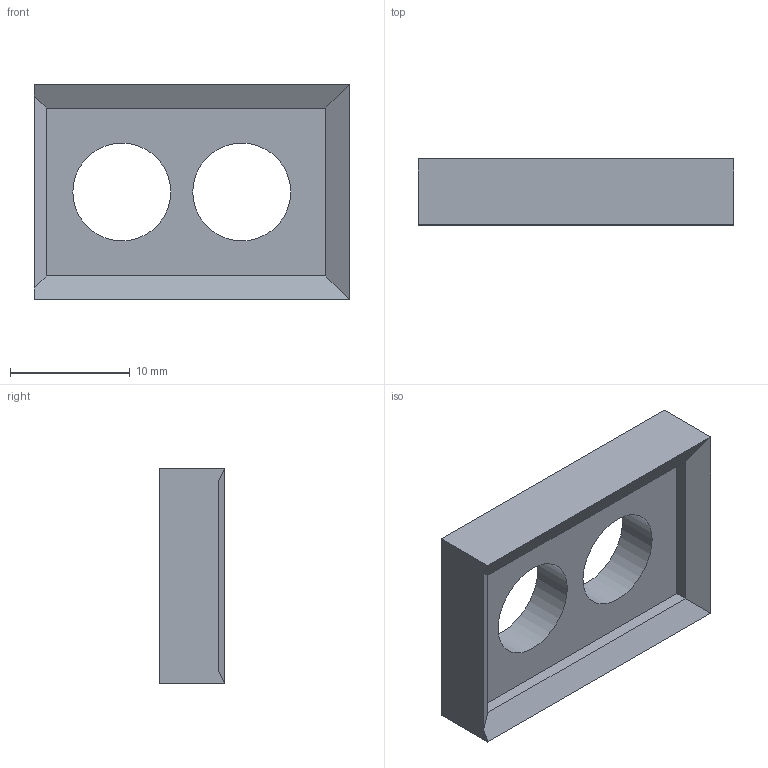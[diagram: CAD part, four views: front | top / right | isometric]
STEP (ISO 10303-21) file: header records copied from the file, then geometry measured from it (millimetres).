
FILE_DESCRIPTION(/* description */ (''),/* implementation_level */ '2;1');
FILE_NAME(/* name */ 'Lumi_TVbuttonframe.step',/* time_stamp */ '2025-06-14T15:39:11+05:30',/* author */ (''),/* organization */ (''),/* preprocessor_version */ 'ST-DEVELOPER v20.1',/* originating_system */ 'Autodesk Translation Framework v14.10.0.0',/* authorisation */ '');
FILE_SCHEMA (('AUTOMOTIVE_DESIGN { 1 0 10303 214 3 1 1 }'));
Length unit declared in the file: millimetre
Products named in the file (1): ButtonFrame
Bounding box: 26.29 x 5.5 x 18 mm (x, y, z)
Volume: 1509.1 mm3; surface area: 1487.4 mm2
Topology: 1 solids, 1 shells, 16 faces, 36 edges, 22 vertices
Faces by surface type: plane 14, cylinder 2
Full cylindrical faces by diameter (mm): 8.158 x2
Entity records: 489 total; most frequent: CARTESIAN_POINT 75, DIRECTION 74, ORIENTED_EDGE 72, EDGE_CURVE 36, LINE 32, VECTOR 32, VERTEX_POINT 22, AXIS2_PLACEMENT_3D 21
